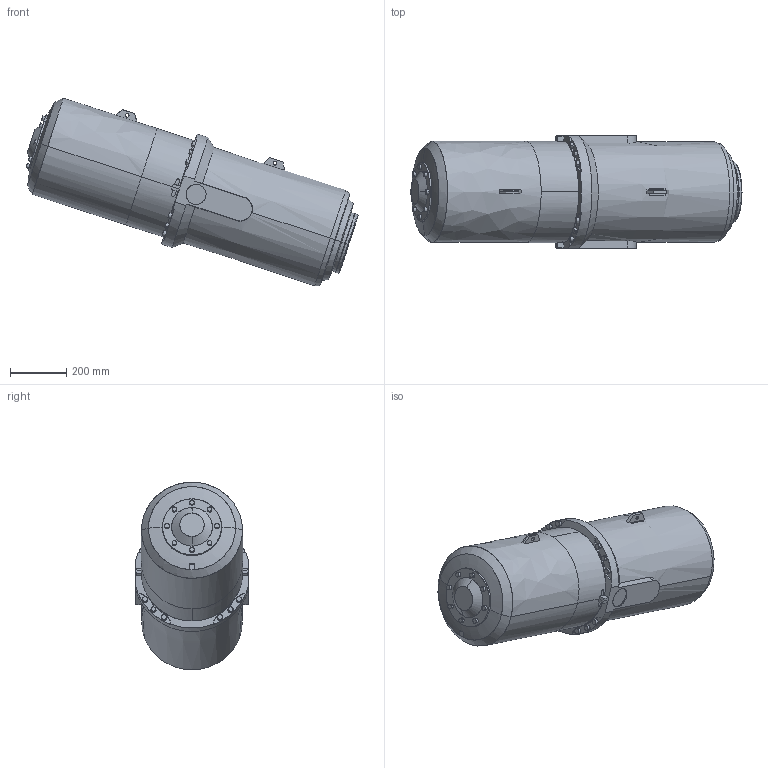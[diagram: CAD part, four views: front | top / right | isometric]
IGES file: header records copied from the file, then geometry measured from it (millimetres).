
Start section: SolidWorks IGES file using analytic representation for surfaces
Global section: file name: C:\Data\SAP_DOC\IRB6740_lightweight\6750S\IRB 6750S ASM\IRB6750S-MH3_350kg-320_OC_02_SW_J\IRB6750S-MH3_350kg-320_OC_02_IGES_J\IRB6750S_All_OC_00_CYL_CAD.igs; native system: SolidWorks 2024; preprocessor: SolidWorks 2024; author: SEJAOLS6; date: 260507.085345; units: millimetre
Bounding box: 1181.87 x 400 x 668.07 mm (x, y, z)
Surface area: 1778017.3 mm2 (no closed solid volume)
Topology: 0 solids, 0 shells, 210 faces, 4620 edges, 4620 vertices
Faces by surface type: revolution 124, bspline 86
